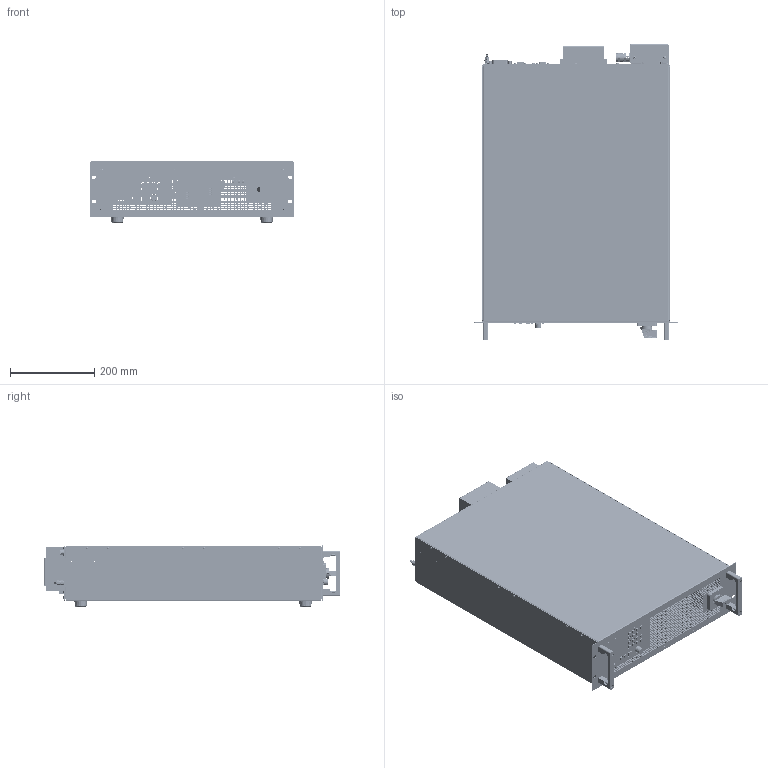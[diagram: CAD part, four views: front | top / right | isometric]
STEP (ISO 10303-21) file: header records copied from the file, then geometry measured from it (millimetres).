
FILE_DESCRIPTION(('STEP AP214'),'1');
FILE_NAME('ERI_M1_19Z_3HE_FKS20_5_SM8_3D_01.step','2019-01-24T07:45:03',(' '),(' '),'Spatial InterOp 3D',' ',' ');
FILE_SCHEMA(('AUTOMOTIVE_DESIGN { 1 0 10303 214 1 1 1 1 }'));
Length unit declared in the file: millimetre
Products named in the file (1): 1
Bounding box: 482.6 x 701.39 x 145.06 mm (x, y, z)
Volume: 1680088 mm3; surface area: 2029471.8 mm2
Topology: 188 solids, 1192 shells, 13603 faces, 39682 edges, 31678 vertices
Faces by surface type: plane 8482, cylinder 2294, cone 2192, bspline 397, sphere 122, torus 114, extrusion 2
Entity records: 571103 total; most frequent: CARTESIAN_POINT 86467, DIRECTION 73137, ORIENTED_EDGE 68361, EDGE_CURVE 35685, VECTOR 29771, LINE 29769, VERTEX_POINT 23905, AXIS2_PLACEMENT_3D 21683
